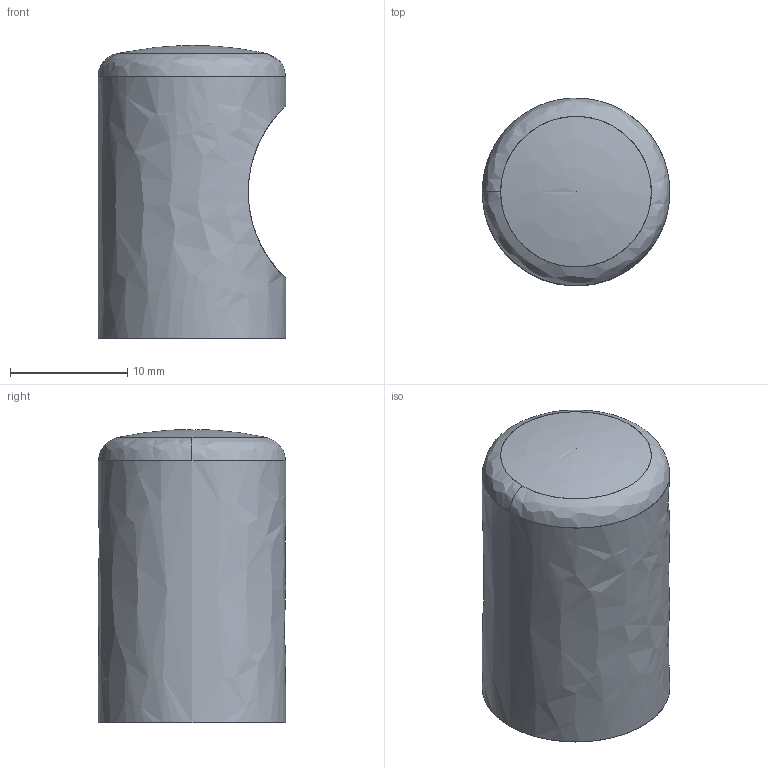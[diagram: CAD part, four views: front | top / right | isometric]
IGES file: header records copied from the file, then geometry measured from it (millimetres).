
Start section: C
Global section: file name: 8006-25.igs; native system: By Siemens PLM Incorporated; preprocessor: XPlus GENERIC/IGES 16.0.42; author: Author; organization: Title; date: 20231129.085746; units: millimetre
Bounding box: 16 x 16 x 25 mm (x, y, z)
Surface area: 3163.5 mm2 (no closed solid volume)
Topology: 0 solids, 0 shells, 24 faces, 121 edges, 120 vertices
Faces by surface type: bspline 24
